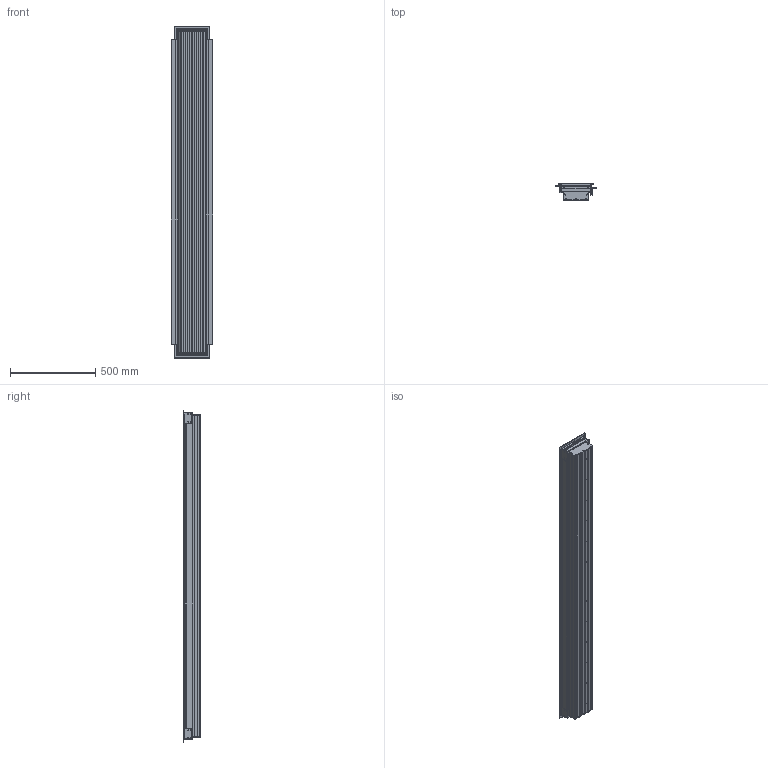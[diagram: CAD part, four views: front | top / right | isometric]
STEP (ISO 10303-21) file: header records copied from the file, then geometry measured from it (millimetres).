
FILE_DESCRIPTION (( 'STEP AP203' ), '1' );
FILE_NAME ('977506_L75i_with_307505Low-Profile_inwall.STEP', '2024-07-26T13:02:41', ( '' ), ( '' ), 'SwSTEP 2.0', 'SolidWorks 2023', '' );
FILE_SCHEMA (( 'CONFIG_CONTROL_DESIGN' ));
Length unit declared in the file: millimetre
Products named in the file (1): 977506_L75i_with_307505Low-Profile_inwall
Bounding box: 240.92 x 99.22 x 1944.12 mm (x, y, z)
Surface area: 1825170.6 mm2 (no closed solid volume)
Topology: 0 solids, 38 shells, 433 faces, 2025 edges, 1594 vertices
Faces by surface type: plane 217, cylinder 166, cone 35, torus 15
Full cylindrical faces by diameter (mm): 3.302 x16, 3.734 x24, 4.496 x6, 9.474 x2, 11.455 x8, 12.7 x4, 70.104 x2
Entity records: 20043 total; most frequent: CARTESIAN_POINT 3953, DIRECTION 3485, ORIENTED_EDGE 2654, EDGE_CURVE 1866, VERTEX_POINT 1547, AXIS2_PLACEMENT_3D 1203, LINE 1079, VECTOR 1079
